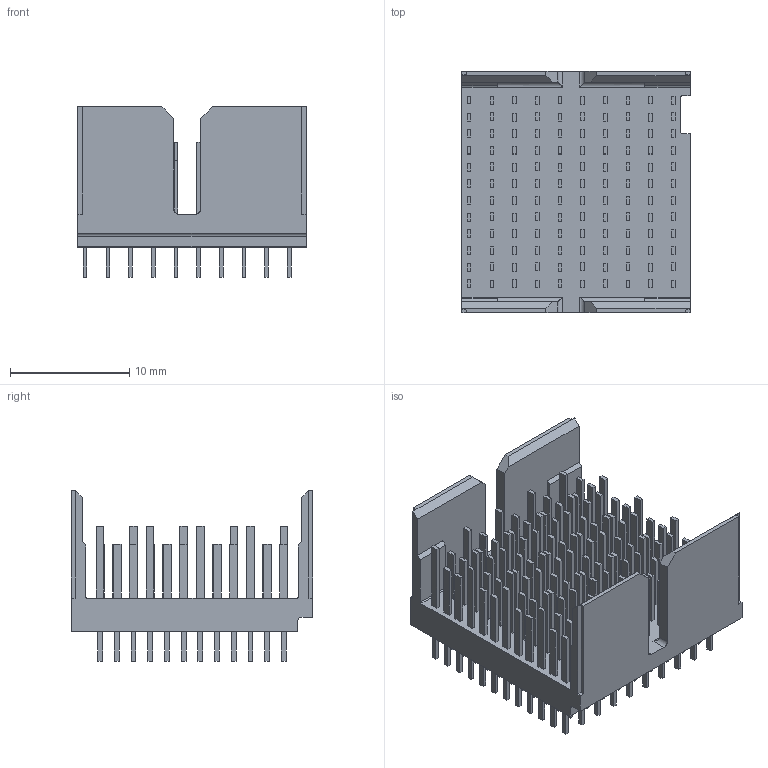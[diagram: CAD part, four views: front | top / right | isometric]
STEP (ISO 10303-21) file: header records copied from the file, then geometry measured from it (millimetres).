
FILE_DESCRIPTION((''),'2;1');
FILE_NAME('C-2065917-3','2017-07-10T',('workeradm'),('Tyco Electronics Ltd.'),'CREO PARAMETRIC BY PTC INC, 2016050','CREO PARAMETRIC BY PTC INC, 2016050','');
FILE_SCHEMA(('AUTOMOTIVE_DESIGN { 1 0 10303 214 1 1 1 1 }'));
Length unit declared in the file: millimetre
Products named in the file (1): C-2065917-3
Bounding box: 19.15 x 20.2 x 14.3 mm (x, y, z)
Volume: 1457.8 mm3; surface area: 3198.4 mm2
Topology: 1 solids, 1 shells, 1278 faces, 3100 edges, 2064 vertices
Faces by surface type: plane 1260, cylinder 18
Entity records: 36784 total; most frequent: CARTESIAN_POINT 6492, ORIENTED_EDGE 6200, DIRECTION 5680, EDGE_CURVE 3100, VECTOR 3068, LINE 3068, VERTEX_POINT 2064, EDGE_LOOP 1518
